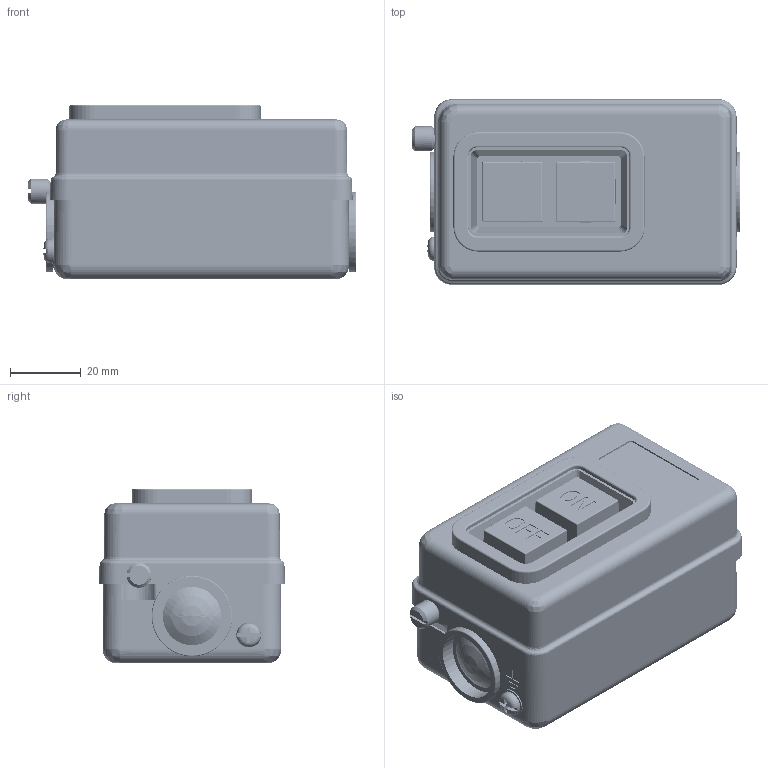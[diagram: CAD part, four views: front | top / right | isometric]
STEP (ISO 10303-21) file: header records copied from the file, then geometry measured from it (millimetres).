
FILE_DESCRIPTION((''),'2;1');
FILE_NAME('TBSN315_ASM','2016-06-28T',('Administrator'),(''),'PRO/ENGINEER BY PARAMETRIC TECHNOLOGY CORPORATION, 2012360','PRO/ENGINEER BY PARAMETRIC TECHNOLOGY CORPORATION, 2012360','');
FILE_SCHEMA(('CONFIG_CONTROL_DESIGN'));
Products named in the file (1): TBSN315_ASM
Bounding box: 92.68 x 52.4 x 49.4 mm (x, y, z)
Volume: 44541.9 mm3; surface area: 74592.5 mm2
Topology: 1 solids, 41 shells, 3700 faces, 10489 edges, 6745 vertices
Faces by surface type: plane 2319, cylinder 669, bspline 369, torus 156, cone 122, sphere 60, extrusion 5
Entity records: 189423 total; most frequent: CARTESIAN_POINT 96616, ORIENTED_EDGE 20918, DIRECTION 17010, EDGE_CURVE 10459, VECTOR 6864, LINE 6859, VERTEX_POINT 6745, AXIS2_PLACEMENT_3D 5073
